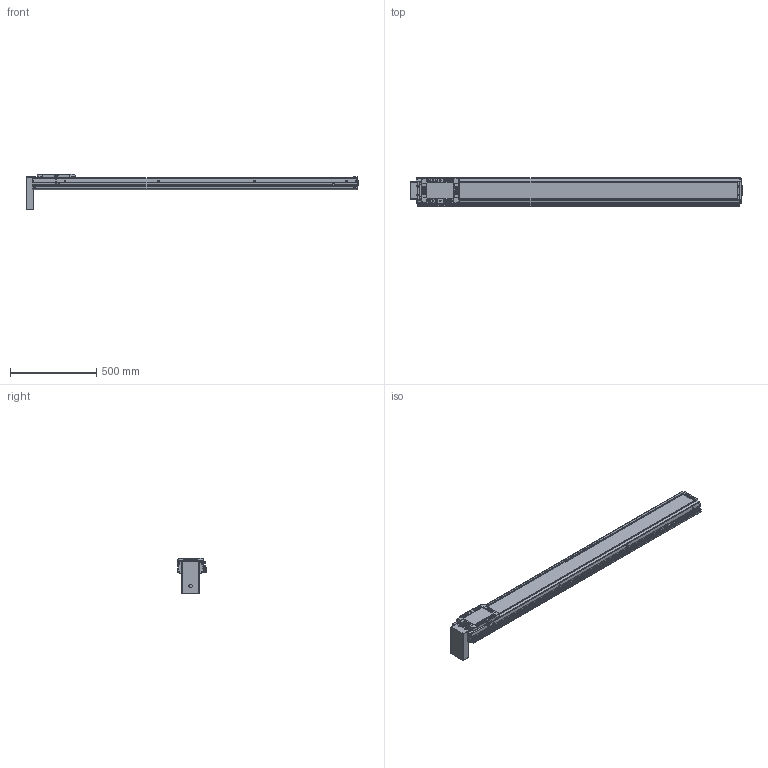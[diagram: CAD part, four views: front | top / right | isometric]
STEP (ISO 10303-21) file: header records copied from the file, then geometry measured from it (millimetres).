
FILE_DESCRIPTION(('STEP AP214'),'1');
FILE_NAME('Z:/Web/3D/SAN150/2013.04 (STP.)/SAN150ㅁㅁ-1600PB+3SR.stp','2013-05-07T08:27:07',(' '),(' '),'Spatial InterOp 3D',' ',' ');
FILE_SCHEMA(('automotive_design'));
Length unit declared in the file: millimetre
Products named in the file (62): M3.0 x 6.0; SRL-16x17-360L; SGD-SAN150; EE-SX674; SBK-SX674-352; 스크루 : Round - M3.0 x 6.0; BHCS M4.0 x 10.0; PB; SLBL-SAN150; SLCV-SAN150; FHCS M4.0 x 8.0; SFX-SAN150; RRCV-SAN150; FRBL-SAN150; Spacer; RN15; FRCV-SAN150; Screw 20; BASE-SAN150-000L ; SUS COVER; 스크루 : Round - M5.0 x 6.0
Bounding box: 1920 x 166 x 205.4 mm (x, y, z)
Volume: 10536175.1 mm3; surface area: 2035307 mm2
Topology: 62 solids, 62 shells, 2936 faces, 7550 edges, 4827 vertices
Faces by surface type: plane 1458, cylinder 995, cone 362, sphere 88, bspline 21, torus 12
Entity records: 116938 total; most frequent: CARTESIAN_POINT 19269, DIRECTION 16020, ORIENTED_EDGE 14796, EDGE_CURVE 7398, AXIS2_PLACEMENT_3D 5781, VERTEX_POINT 4827, LINE 4458, VECTOR 4458
